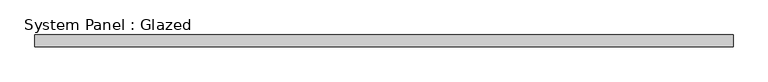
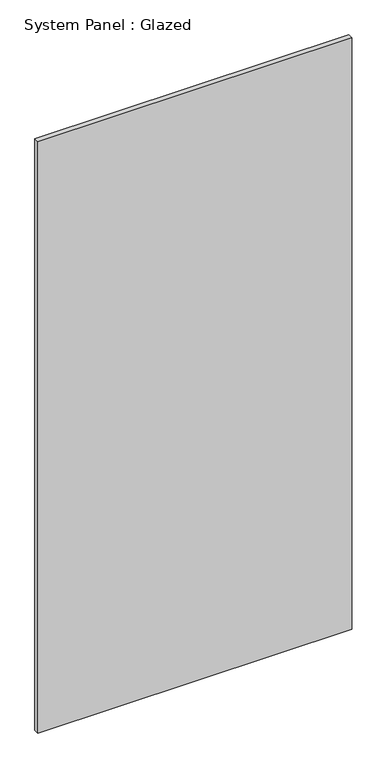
"""IFC4 building model written with IfcOpenShell, lengths in millimetres: plate geometry, System Panel : Glazed."""

from ifc_helpers import new_model, si_unit, origin, origin_with_axes, place, context, project, spatial, polyline, outline, extrude, source, transform, mapped, element, save


def system_panel_glazed_64ac1428(model_context):
    return source(origin(), model_context, "Body", "SweptSolid", [
        extrude(outline(polyline([(755.65, -44.45), (-755.65, -44.45), (-755.65, -19.05), (755.65, -19.05), (755.65, -44.45)])), origin_with_axes(), (0.0, 0.0, 1.0), 3009.9),
    ])


if __name__ == "__main__":
    model = new_model("IFC4")
    model_context = context("Model", 3, world=origin())
    ifc_project = project(units=[si_unit("LENGTHUNIT", "METRE", prefix="MILLI")], contexts=[model_context])
    site = spatial("IfcSite", under=ifc_project)
    building = spatial("IfcBuilding", under=site)
    placement = place(None, origin())
    system_panel_glazed_shape = system_panel_glazed_64ac1428(model_context)
    element("IfcPlate", 1, ObjectType="System Panel : Glazed", at=placement, inside=building, context=model_context, shape_type="MappedRepresentation", body=[
        mapped(system_panel_glazed_shape, transform((0.0, 0.0, 0.0), x_axis=(1.0, 0.0, 0.0), y_axis=(0.0, 1.0, 0.0), z_axis=(0.0, 0.0, 1.0))),
    ])
    save(model, "model.ifc")
